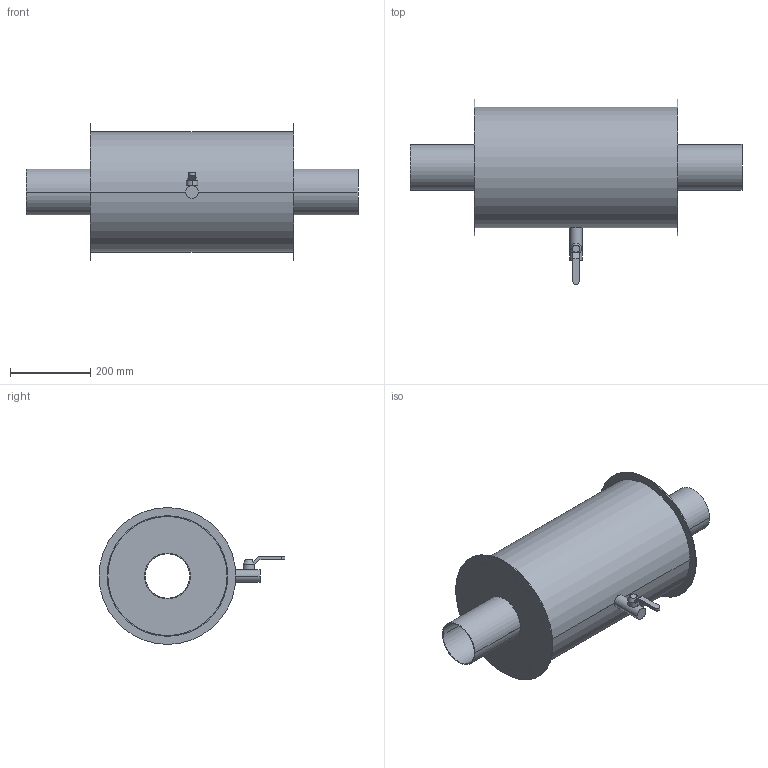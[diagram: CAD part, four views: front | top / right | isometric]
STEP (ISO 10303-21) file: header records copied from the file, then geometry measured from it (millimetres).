
FILE_DESCRIPTION((''),'2;1');
FILE_NAME('52178848','2024-04-08T08:30:20',('hrl'),('HUBER SE'),'CREO PARAMETRIC BY PTC INC, 2023154','CREO PARAMETRIC BY PTC INC, 2023154','');
FILE_SCHEMA(('AUTOMOTIVE_DESIGN { 1 0 10303 214 1 1 1 1 }'));
Length unit declared in the file: millimetre
Products named in the file (1): 52178848
Bounding box: 825 x 462 x 340 mm (x, y, z)
Volume: 1574868.8 mm3; surface area: 1508202.9 mm2
Topology: 4 solids, 4 shells, 43 faces, 85 edges, 56 vertices
Faces by surface type: cylinder 21, plane 20, cone 2
Entity records: 1660 total; most frequent: DIRECTION 215, CARTESIAN_POINT 186, ORIENTED_EDGE 170, COLOUR_RGB 106, AXIS2_PLACEMENT_3D 87, EDGE_CURVE 85, PROPERTY_DEFINITION 72, REPRESENTATION 71
